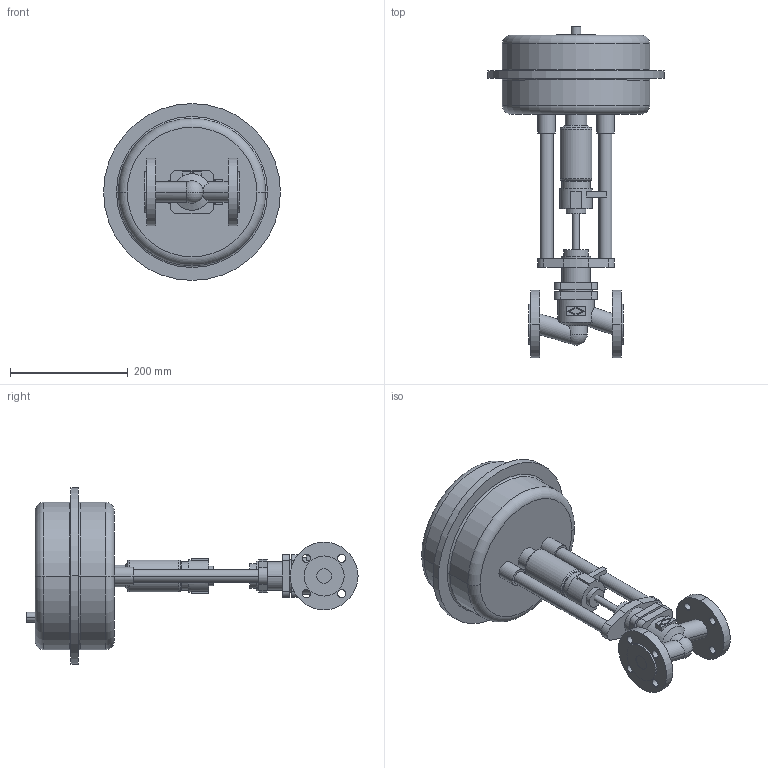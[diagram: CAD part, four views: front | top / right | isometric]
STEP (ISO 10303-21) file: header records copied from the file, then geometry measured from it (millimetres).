
FILE_DESCRIPTION(('OneSpaceDesigner STEP Export'),'2;1');
FILE_NAME('c000001476.stp','2005-02-15T 9:26:39',(''),(''),'OneSpace Designer STEP processor (Jan. 2003) for AP203(Solid Model)','OneSpace Designer 12.01D 09-Jul-2004 (C) CoCreate Software GmbH','');
FILE_SCHEMA(('CONFIG_CONTROL_DESIGN'));
Length unit declared in the file: millimetre
Products named in the file (2): 1; 2
Bounding box: 300 x 563.1 x 300 mm (x, y, z)
Volume: 8197263.3 mm3; surface area: 421470.1 mm2
Topology: 2 solids, 2 shells, 181 faces, 432 edges, 280 vertices
Faces by surface type: cylinder 84, plane 73, torus 16, cone 6, sphere 2
Entity records: 5001 total; most frequent: CARTESIAN_POINT 956, ORIENTED_EDGE 860, DIRECTION 727, EDGE_CURVE 430, VERTEX_POINT 280, AXIS2_PLACEMENT_3D 264, EDGE_LOOP 224, VECTOR 199
